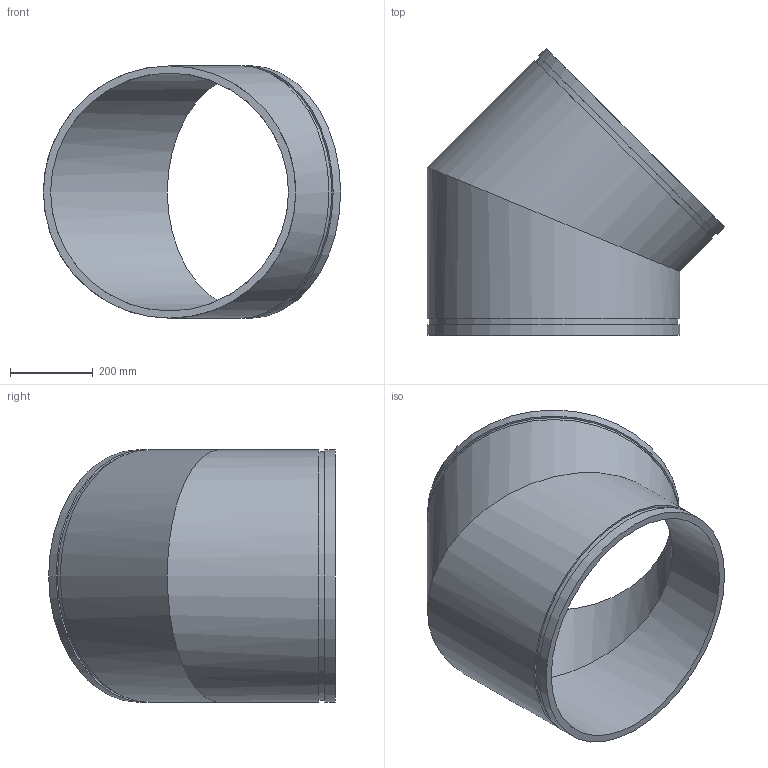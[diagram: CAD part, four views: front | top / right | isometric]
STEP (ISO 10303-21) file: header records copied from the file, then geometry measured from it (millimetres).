
FILE_DESCRIPTION(/* description */ ('VIC 45 DEG FABRICATED ELBOW No 11 SWS (OGS)','CAx-IF Rec.Pracs.---Representation and Presentation of Product Manufacturing Information (PMI)---4.0---2014-10-13'),/* implementation_level */ '2;1');
FILE_NAME(/* name */ 'C:\Users\kkamble\AppData\Roaming\Autodesk\ApplicationPlugins\Back Up\Victaulic_IPS_Elbow 45 Deg_No 11 SWS (OGS)\Victaulic_IPS_Elbow 45 Deg_No 11 SWS (OGS)_24 (600).stp',/* time_stamp */ '2020-09-16T22:15:21+06:00',/* author */ ('cgray'),/* organization */ ('Victaulic'),/* preprocessor_version */ 'ST-DEVELOPER v17.2',/* originating_system */ 'Autodesk Inventor 2019',/* authorisation */ '');
FILE_SCHEMA (('AP242_MANAGED_MODEL_BASED_3D_ENGINEERING_MIM_LF { 1 0 10303 442 1 1 4 }'));
Length unit declared in the file: inch
Products named in the file (1): 11 SWS-24.0
Bounding box: 717.89 x 692.49 x 609.6 mm (x, y, z)
Volume: 17902062.1 mm3; surface area: 2176431.2 mm2
Topology: 1 solids, 1 shells, 14 faces, 30 edges, 22 vertices
Faces by surface type: cylinder 8, plane 6
Full cylindrical faces by diameter (mm): 574.7 x2, 600.862 x2, 609.6 x4
Entity records: 554 total; most frequent: DIRECTION 108, CARTESIAN_POINT 84, ORIENTED_EDGE 60, AXIS2_PLACEMENT_3D 50, EDGE_CURVE 30, VERTEX_POINT 22, EDGE_LOOP 20, CIRCLE 16
